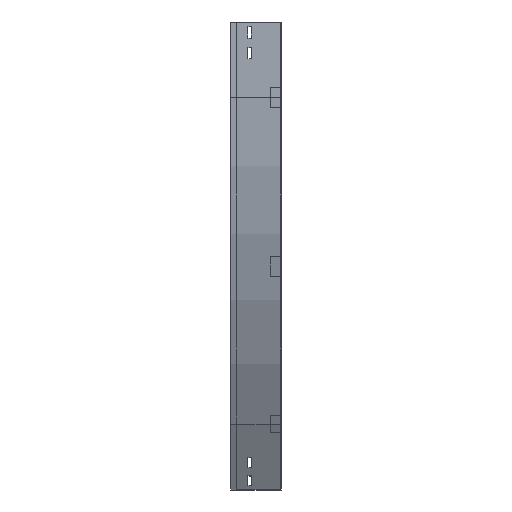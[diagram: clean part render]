
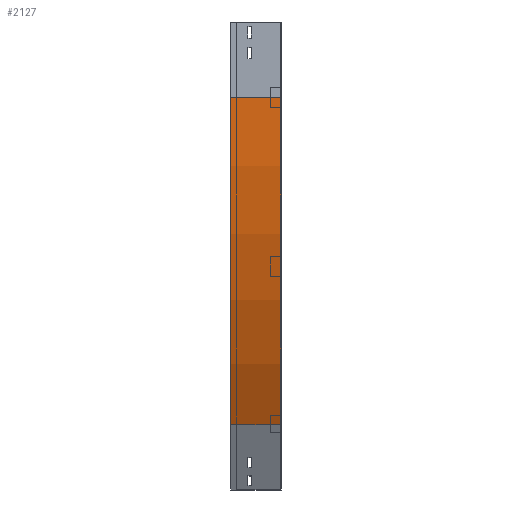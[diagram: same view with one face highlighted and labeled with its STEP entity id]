
A CAD part, left-side view. The second image highlights one B-rep face of the part: STEP entity #2127.
In plain terms, the highlighted cylindrical face has radius 1300 mm (diameter 2600 mm), a partial arc.
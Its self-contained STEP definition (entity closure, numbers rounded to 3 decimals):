
#122 = CARTESIAN_POINT ( 'NONE',  ( 1300., 0., -150. ) ) ;
#163 = LINE ( 'NONE', #1086, #2606 ) ;
#259 = DIRECTION ( 'NONE',  ( 0., -1., 0. ) ) ;
#656 = VERTEX_POINT ( 'NONE', #2267 ) ;
#696 = DIRECTION ( 'NONE',  ( 0., -1., 0. ) ) ;
#832 = LINE ( 'NONE', #2903, #3304 ) ;
#875 = AXIS2_PLACEMENT_3D ( 'NONE', #122, #3748, #1293 ) ;
#895 = ORIENTED_EDGE ( 'NONE', *, *, #1375, .T. ) ;
#932 = DIRECTION ( 'NONE',  ( 0., 0., -1. ) ) ;
#952 = CARTESIAN_POINT ( 'NONE',  ( 1300., 0., -150. ) ) ;
#1005 = ORIENTED_EDGE ( 'NONE', *, *, #1274, .T. ) ;
#1086 = CARTESIAN_POINT ( 'NONE',  ( 174.167, 0., -800. ) ) ;
#1215 = ORIENTED_EDGE ( 'NONE', *, *, #1794, .F. ) ;
#1274 = EDGE_CURVE ( 'NONE', #1407, #2597, #1404, .T. ) ;
#1293 = DIRECTION ( 'NONE',  ( -1., 0., 0. ) ) ;
#1375 = EDGE_CURVE ( 'NONE', #2597, #3398, #163, .T. ) ;
#1404 = CIRCLE ( 'NONE', #2344, 1300. ) ;
#1407 = VERTEX_POINT ( 'NONE', #2190 ) ;
#1510 = FACE_OUTER_BOUND ( 'NONE', #3105, .T. ) ;
#1794 = EDGE_CURVE ( 'NONE', #656, #3398, #3245, .T. ) ;
#1879 = DIRECTION ( 'NONE',  ( -1., 0., 0. ) ) ;
#1907 = EDGE_CURVE ( 'NONE', #1407, #656, #832, .T. ) ;
#2122 = CARTESIAN_POINT ( 'NONE',  ( 174.167, 0., -800. ) ) ;
#2127 = ADVANCED_FACE ( 'NONE', ( #1510 ), #2706, .T. ) ;
#2190 = CARTESIAN_POINT ( 'NONE',  ( 0., 100., -150. ) ) ;
#2267 = CARTESIAN_POINT ( 'NONE',  ( 0., 0., -150. ) ) ;
#2277 = ORIENTED_EDGE ( 'NONE', *, *, #1907, .F. ) ;
#2344 = AXIS2_PLACEMENT_3D ( 'NONE', #3660, #696, #1879 ) ;
#2597 = VERTEX_POINT ( 'NONE', #3330 ) ;
#2606 = VECTOR ( 'NONE', #3460, 1000. ) ;
#2706 = CYLINDRICAL_SURFACE ( 'NONE', #3611, 1300. ) ;
#2903 = CARTESIAN_POINT ( 'NONE',  ( 0., 0., -150. ) ) ;
#3105 = EDGE_LOOP ( 'NONE', ( #1215, #2277, #1005, #895 ) ) ;
#3245 = CIRCLE ( 'NONE', #875, 1300. ) ;
#3304 = VECTOR ( 'NONE', #259, 1000. ) ;
#3330 = CARTESIAN_POINT ( 'NONE',  ( 174.167, 100., -800. ) ) ;
#3398 = VERTEX_POINT ( 'NONE', #2122 ) ;
#3460 = DIRECTION ( 'NONE',  ( 0., -1., 0. ) ) ;
#3596 = DIRECTION ( 'NONE',  ( 0., -1., 0. ) ) ;
#3611 = AXIS2_PLACEMENT_3D ( 'NONE', #952, #3596, #932 ) ;
#3660 = CARTESIAN_POINT ( 'NONE',  ( 1300., 100., -150. ) ) ;
#3748 = DIRECTION ( 'NONE',  ( 0., -1., 0. ) ) ;
